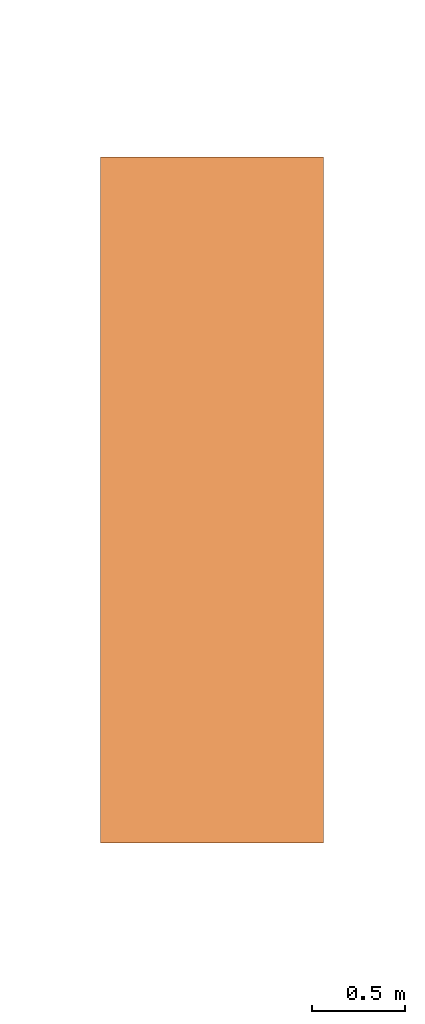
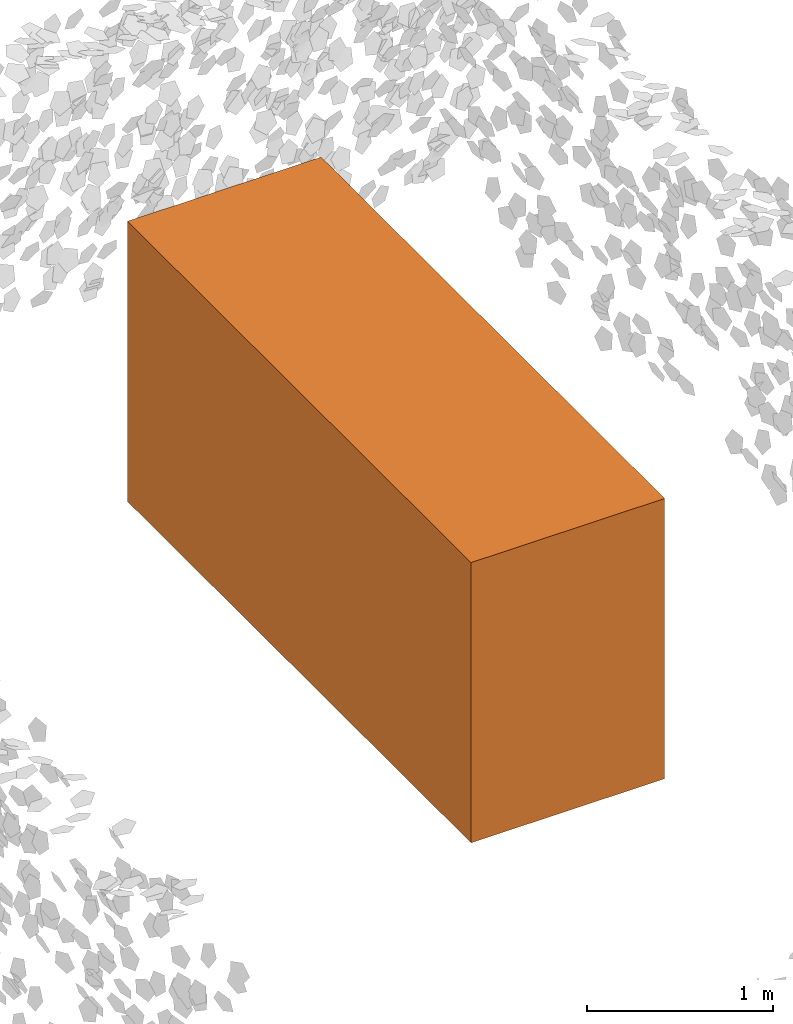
# One storey, part 297 of 301: 1 proxy.
"""IFC2X3 building model written with IfcOpenShell, lengths in millimetres."""

from ifc_helpers import new_model, entity, si_unit, converted_unit, derived_unit, money_unit, direction, frame, origin_with_axes, place, context, subcontext, project, spatial, faceted_brep, material, type_object, element, save


model = new_model("IFC2X3")

# Units and contexts
model_context = context("Model", 3, precision=0.01, world=origin_with_axes(), true_north=direction((0.0, 1.0)))
body_context = subcontext(model_context, "Body", "Model", "MODEL_VIEW")
ifc_project = project(units=[si_unit("LENGTHUNIT", "METRE", prefix="MILLI"), si_unit("AREAUNIT", "SQUARE_METRE"), si_unit("VOLUMEUNIT", "CUBIC_METRE"), converted_unit("PLANEANGLEUNIT", "DEGREE", entity("IfcPlaneAngleMeasure", 0.0174532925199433), si_unit("PLANEANGLEUNIT", "RADIAN"), dimensions=[0, 0, 0, 0, 0, 0, 0]), money_unit("EUR"), converted_unit("TIMEUNIT", "Year", entity("IfcTimeMeasure", 31557600.0), si_unit("TIMEUNIT", "SECOND"), dimensions=[0, 0, 1, 0, 0, 0, 0]), si_unit("MASSUNIT", "GRAM", prefix="KILO"), si_unit("THERMODYNAMICTEMPERATUREUNIT", "DEGREE_CELSIUS"), si_unit("LUMINOUSINTENSITYUNIT", "LUMEN"), si_unit("ENERGYUNIT", "JOULE", prefix="MEGA"), derived_unit("THERMALCONDUCTANCEUNIT", [(si_unit("POWERUNIT", "WATT"), 1), (si_unit("LENGTHUNIT", "METRE"), -1), (si_unit("THERMODYNAMICTEMPERATUREUNIT", "KELVIN"), -1)]), derived_unit("SPECIFICHEATCAPACITYUNIT", [(si_unit("ENERGYUNIT", "JOULE"), 1), (si_unit("MASSUNIT", "GRAM", prefix="KILO"), -1), (si_unit("THERMODYNAMICTEMPERATUREUNIT", "KELVIN"), -1)]), derived_unit("MASSDENSITYUNIT", [(si_unit("MASSUNIT", "GRAM", prefix="KILO"), 1), (si_unit("VOLUMEUNIT", "CUBIC_METRE"), -1)])], contexts=[model_context])

# Site, building, storey
site_placement = place(None, frame((0.0, 0.0, 8650.0), z_axis=(0.0, 0.0, 1.0), x_axis=(1.0, 0.0, 0.0)))
site = spatial("IfcSite", under=ifc_project, at=site_placement, Name="43301:001:0844", CompositionType="ELEMENT")
building_placement = place(site_placement, origin_with_axes())
building = spatial("IfcBuilding", under=site, at=building_placement, Name="Kuressaare Ametikooli tuulikute mehaanikute õppekorpus", CompositionType="ELEMENT")
storey_placement = place(building_placement, origin_with_axes())
storey = spatial("IfcBuildingStorey", under=building, at=storey_placement, Name="1.korrus", CompositionType="ELEMENT", Elevation=0.0)

# Proxy
ifc_material = material(Name="Air Space")
building_element_proxy_type = type_object("IfcBuildingElementProxyType", Name="Air Space 1842", PredefinedType="NOTDEFINED")
proxy_placement = place(storey_placement, frame((137839.06063, -2044.779320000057, 0.0), z_axis=(0.0, 0.0, 1.0), x_axis=(1.0, 0.0, 0.0)))
element("IfcBuildingElementProxy", 1, at=proxy_placement, inside=storey, type_object=building_element_proxy_type, material=ifc_material, Name="SLA - 001", context=body_context, shape_type="Brep", body=[
    faceted_brep([(0.0, 0.0, 0.0), (0.0, 3700.00002, 0.0), (0.0, 3700.00002, 1842.000069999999), (0.0, 0.0, 1842.000069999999), (-1203.999979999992, 0.0, 0.0), (-1203.999979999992, 3700.00002, 0.0), (-1203.999979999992, 3700.00002, 1842.000069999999), (-1203.999979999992, 0.0, 1842.000069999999)], [[[0, 1, 2, 3]], [[0, 4, 5, 1]], [[1, 5, 6, 2]], [[3, 2, 6, 7]], [[4, 0, 3, 7]], [[5, 4, 7, 6]]]),
])

save(model, "model.ifc")
